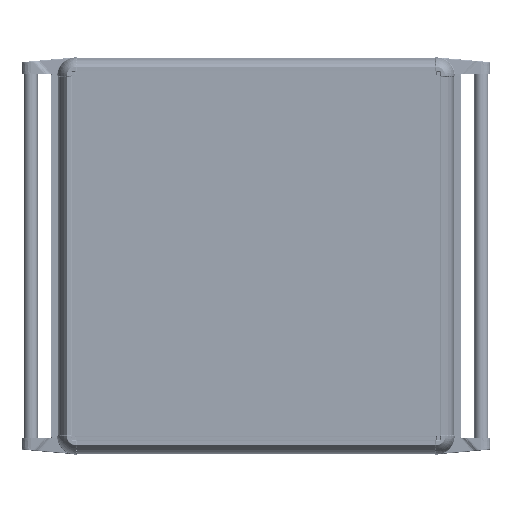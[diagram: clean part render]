
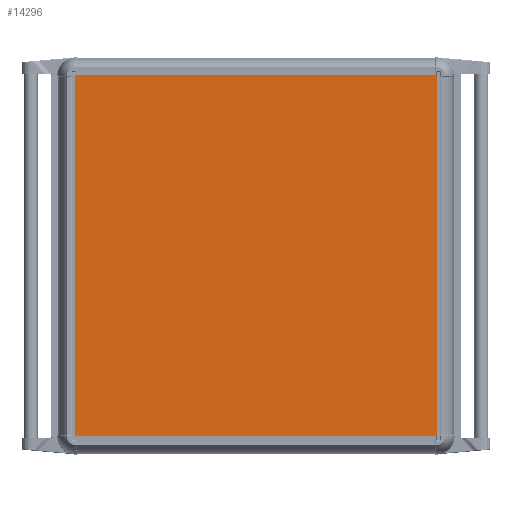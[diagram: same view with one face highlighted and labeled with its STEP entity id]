
A CAD part, top view. The second image highlights one B-rep face of the part: STEP entity #14296.
In plain terms, the highlighted planar face has unit normal (0, 0, 1).
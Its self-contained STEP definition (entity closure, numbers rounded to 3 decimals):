
#14296 = ADVANCED_FACE ( 'NONE', ( #217878 ), #49481, .T. ) ;
#18288 = AXIS2_PLACEMENT_3D ( 'NONE', #132752, #221505, #195493 ) ;
#19013 = ORIENTED_EDGE ( 'NONE', *, *, #281369, .T. ) ;
#20075 = DIRECTION ( 'NONE',  ( 1., 0., 0. ) ) ;
#31450 = ORIENTED_EDGE ( 'NONE', *, *, #232919, .T. ) ;
#33427 = ORIENTED_EDGE ( 'NONE', *, *, #152427, .T. ) ;
#46769 = LINE ( 'NONE', #70870, #288794 ) ;
#47052 = EDGE_LOOP ( 'NONE', ( #19013, #33427, #153387, #31450 ) ) ;
#48307 = LINE ( 'NONE', #135213, #255465 ) ;
#49481 = PLANE ( 'NONE',  #18288 ) ;
#70870 = CARTESIAN_POINT ( 'NONE',  ( -250., 250., 2. ) ) ;
#106472 = DIRECTION ( 'NONE',  ( 0., 1., 0. ) ) ;
#112018 = CARTESIAN_POINT ( 'NONE',  ( 250., -250., 2. ) ) ;
#114040 = VERTEX_POINT ( 'NONE', #112018 ) ;
#132752 = CARTESIAN_POINT ( 'NONE',  ( 0., 0., 2. ) ) ;
#135213 = CARTESIAN_POINT ( 'NONE',  ( -250., 250., 2. ) ) ;
#144980 = VERTEX_POINT ( 'NONE', #170521 ) ;
#152427 = EDGE_CURVE ( 'NONE', #269792, #262719, #48307, .T. ) ;
#153387 = ORIENTED_EDGE ( 'NONE', *, *, #301998, .T. ) ;
#163783 = LINE ( 'NONE', #356101, #293656 ) ;
#170521 = CARTESIAN_POINT ( 'NONE',  ( -250., -250., 2. ) ) ;
#195493 = DIRECTION ( 'NONE',  ( 1., 0., 0. ) ) ;
#217878 = FACE_OUTER_BOUND ( 'NONE', #47052, .T. ) ;
#221505 = DIRECTION ( 'NONE',  ( 0., 0., 1. ) ) ;
#232919 = EDGE_CURVE ( 'NONE', #144980, #114040, #328992, .T. ) ;
#248914 = VECTOR ( 'NONE', #20075, 1000. ) ;
#255465 = VECTOR ( 'NONE', #334908, 1000. ) ;
#262719 = VERTEX_POINT ( 'NONE', #319123 ) ;
#265099 = DIRECTION ( 'NONE',  ( 0., -1., 0. ) ) ;
#269792 = VERTEX_POINT ( 'NONE', #273485 ) ;
#273485 = CARTESIAN_POINT ( 'NONE',  ( 250., 250., 2. ) ) ;
#281369 = EDGE_CURVE ( 'NONE', #114040, #269792, #163783, .T. ) ;
#288794 = VECTOR ( 'NONE', #265099, 1000. ) ;
#293656 = VECTOR ( 'NONE', #106472, 1000. ) ;
#301998 = EDGE_CURVE ( 'NONE', #262719, #144980, #46769, .T. ) ;
#319123 = CARTESIAN_POINT ( 'NONE',  ( -250., 250., 2. ) ) ;
#328992 = LINE ( 'NONE', #356563, #248914 ) ;
#334908 = DIRECTION ( 'NONE',  ( -1., 0., 0. ) ) ;
#356101 = CARTESIAN_POINT ( 'NONE',  ( 250., 250., 2. ) ) ;
#356563 = CARTESIAN_POINT ( 'NONE',  ( -250., -250., 2. ) ) ;
